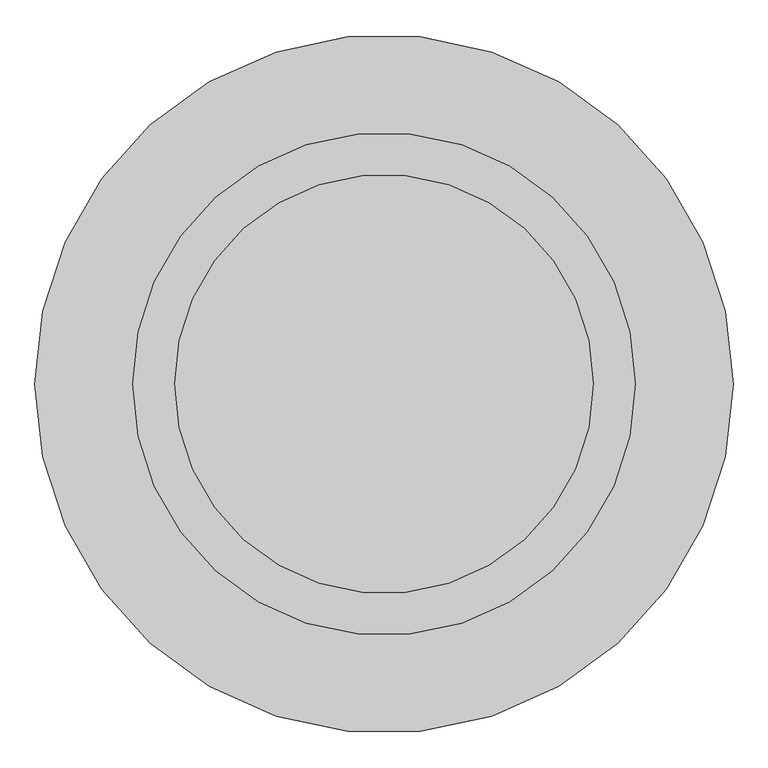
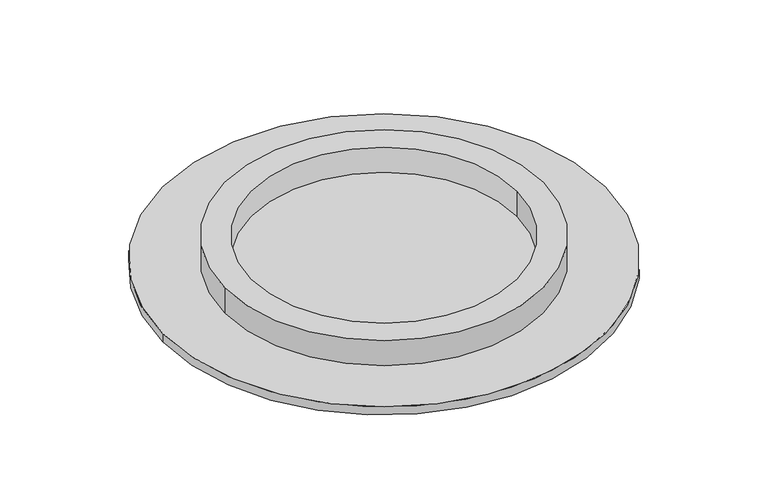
"""IFC4 building model written with IfcOpenShell, lengths in millimetres: proxy geometry, 景观水池 : 景观水池."""

import ifcopenshell
import ifcopenshell.guid

model = None  # the IFC model being written
_history = None  # IfcOwnerHistory: only IFC2X3 demands one
_inside = {}  # id of a spatial element -> (the spatial element, [elements in it])
_under = {}  # id of a project, library or spatial element -> (it, [spatial elements below it])
_declared = {}  # id of a project -> (the project, [libraries it declares])
_typed = {}  # id of a type object -> (the type object, [elements of that type])
_made_of = {}  # id of a material, layer set ... -> (it, [elements and type objects made of it])


def new_model(schema):
    """Start an empty IFC model of exactly this schema.

    Asked for "IFC4X3", IfcOpenShell would pick the latest addendum, in which some entities
    have other attributes; the version numbers below select the first issue.
    IFC2X3 requires an IfcOwnerHistory on every rooted entity: one is made here for all.
    """
    global model, _history
    if schema == "IFC4X3":
        model = ifcopenshell.file(schema_version=(4, 3, 0, 0))
    else:
        model = ifcopenshell.file(schema=schema)
    _inside.clear()
    _under.clear()
    _declared.clear()
    _typed.clear()
    _made_of.clear()
    _history = None
    if model.schema == "IFC2X3":
        org = make("IfcOrganization", Name="unknown")
        user = make(
            "IfcPersonAndOrganization",
            ThePerson=make("IfcPerson", FamilyName="unknown"),
            TheOrganization=org,
        )
        app = make(
            "IfcApplication",
            ApplicationDeveloper=org,
            Version="unknown",
            ApplicationFullName="unknown",
            ApplicationIdentifier="unknown",
        )
        _history = make(
            "IfcOwnerHistory",
            OwningUser=user,
            OwningApplication=app,
            ChangeAction="ADDED",
            CreationDate=0,
        )
    return model


def make(cls, **values):
    """One entity of the class cls with the attributes given. An attribute that is None is left unset."""
    return model.create_entity(
        cls, **{name: value for name, value in values.items() if value is not None}
    )


def rooted(cls, **values):
    """An entity with a GlobalId (a new one), such as an element, a storey or a relation."""
    return make(cls, GlobalId=ifcopenshell.guid.new(), OwnerHistory=_history, **values)


def si_unit(unit_type, name, prefix=None):
    """IfcSIUnit, for example si_unit("LENGTHUNIT", "METRE", prefix="MILLI")."""
    return make("IfcSIUnit", UnitType=unit_type, Prefix=prefix, Name=name)


def assignment(units):
    """IfcUnitAssignment: the units of a project."""
    return None if units is None else make("IfcUnitAssignment", Units=units)


def point(xyz):
    """IfcCartesianPoint."""
    return None if xyz is None else make("IfcCartesianPoint", Coordinates=xyz)


def direction(xyz):
    """IfcDirection."""
    return None if xyz is None else make("IfcDirection", DirectionRatios=xyz)


def frame(location, z_axis=None, x_axis=None):
    """IfcAxis2Placement3D, a coordinate frame: its origin and axes. An axis left out is left unset."""
    return make(
        "IfcAxis2Placement3D",
        Location=point(location),
        Axis=direction(z_axis),
        RefDirection=direction(x_axis),
    )


def frame_2d(location, x_axis=None):
    """IfcAxis2Placement2D, a coordinate frame in the plane: its origin and x axis."""
    return make(
        "IfcAxis2Placement2D", Location=point(location), RefDirection=direction(x_axis)
    )


def origin():
    """The frame at (0, 0, 0) with its axes left unset."""
    return frame((0.0, 0.0, 0.0))


def place(relative_to, where):
    """IfcLocalPlacement: puts the frame where relative to a parent placement (None: the world)."""
    return make(
        "IfcLocalPlacement", PlacementRelTo=relative_to, RelativePlacement=where
    )


def context(
    kind, dimensions, precision=None, world=None, true_north=None, identifier=None
):
    """IfcGeometricRepresentationContext, for example the 3D "Model" context."""
    return make(
        "IfcGeometricRepresentationContext",
        ContextIdentifier=identifier,
        ContextType=kind,
        CoordinateSpaceDimension=dimensions,
        Precision=precision,
        WorldCoordinateSystem=world,
        TrueNorth=true_north,
    )


def project(units=None, contexts=None):
    """IfcProject with its units and contexts."""
    return rooted(
        "IfcProject",
        Name="project",
        RepresentationContexts=contexts,
        UnitsInContext=assignment(units),
    )


def spatial(cls, under=None, at=None, **own):
    """A site, building, storey or space (cls), placed at a placement, below another one or the project."""
    s = rooted(cls, ObjectPlacement=at, **own)
    if under is not None:
        _under.setdefault(under.id(), (under, []))[1].append(s)
    return s


def circle_curve(where, radius):
    """IfcCircle in the frame where."""
    return make("IfcCircle", Position=where, Radius=radius)


def trimmed(basis, trim1, trim2, sense, master):
    """IfcTrimmedCurve: the piece of a basis curve between two trims."""
    return make(
        "IfcTrimmedCurve",
        BasisCurve=basis,
        Trim1=trim1,
        Trim2=trim2,
        SenseAgreement=sense,
        MasterRepresentation=master,
    )


def segment(curve, same_sense, transition):
    """IfcCompositeCurveSegment."""
    return make(
        "IfcCompositeCurveSegment",
        Transition=transition,
        SameSense=same_sense,
        ParentCurve=curve,
    )


def composite_curve(segments, self_intersect=None):
    """IfcCompositeCurve: segments joined end to end."""
    return make("IfcCompositeCurve", Segments=segments, SelfIntersect=self_intersect)


def outline(outer, holes=None, kind="AREA"):
    """IfcArbitraryClosedProfileDef: a profile drawn as a closed curve; with holes, ...WithVoids."""
    if holes is None:
        return make("IfcArbitraryClosedProfileDef", ProfileType=kind, OuterCurve=outer)
    return make(
        "IfcArbitraryProfileDefWithVoids",
        ProfileType=kind,
        OuterCurve=outer,
        InnerCurves=holes,
    )


def extrude(swept, where, along, depth):
    """IfcExtrudedAreaSolid: the profile swept, set in the frame where, extruded along a direction by depth."""
    return make(
        "IfcExtrudedAreaSolid",
        SweptArea=swept,
        Position=where,
        ExtrudedDirection=direction(along),
        Depth=depth,
    )


def shape(context_of_items, identifier, shape_type, items):
    """IfcShapeRepresentation: the items that make up one representation, for example the "Body"."""
    return make(
        "IfcShapeRepresentation",
        ContextOfItems=context_of_items,
        RepresentationIdentifier=identifier,
        RepresentationType=shape_type,
        Items=items,
    )


def source(mapping_origin, context_of_items, identifier, shape_type, items):
    """IfcRepresentationMap: a shape defined once, which mapped items show again and again."""
    return make(
        "IfcRepresentationMap",
        MappingOrigin=mapping_origin,
        MappedRepresentation=shape(context_of_items, identifier, shape_type, items),
    )


def transform(
    local_origin,
    x_axis=None,
    y_axis=None,
    z_axis=None,
    scale=None,
    scale2=None,
    scale3=None,
    uniform=True,
):
    """IfcCartesianTransformationOperator3D, or its non-uniform kind. x_axis, y_axis, z_axis: its Axis1, 2, 3."""
    if uniform:
        return make(
            "IfcCartesianTransformationOperator3D",
            Axis1=direction(x_axis),
            Axis2=direction(y_axis),
            LocalOrigin=point(local_origin),
            Scale=scale,
            Axis3=direction(z_axis),
        )
    return make(
        "IfcCartesianTransformationOperator3DnonUniform",
        Axis1=direction(x_axis),
        Axis2=direction(y_axis),
        LocalOrigin=point(local_origin),
        Scale=scale,
        Axis3=direction(z_axis),
        Scale2=scale2,
        Scale3=scale3,
    )


def mapped(mapping_source, mapping_target):
    """IfcMappedItem: shows the shape of a source again, moved by a transform."""
    return make(
        "IfcMappedItem", MappingSource=mapping_source, MappingTarget=mapping_target
    )


def made_of(thing, what):
    """Note that an element or type object is made of a material, layer set ...; save() writes the relation."""
    if what is not None:
        _made_of.setdefault(what.id(), (what, []))[1].append(thing)
    return thing


def element(
    cls,
    number,
    at=None,
    inside=None,
    cuts=None,
    type_object=None,
    material=None,
    context=None,
    identifier="Body",
    shape_type=None,
    held_by="IfcProductDefinitionShape",
    body=None,
    shapes=None,
    **own,
):
    """One element of the class cls, such as IfcWall. Its Tag is "e" and its number.

    at: its placement. inside: the storey or other place that contains it. cuts: it is an
    opening in that element (IfcRelVoidsElement). A single representation is given by context,
    identifier, shape_type and body (its items); several are given by shapes. held_by: the class
    of the entity that holds the representations. save() writes the other relations.
    """
    e = rooted(cls, Tag="e%d" % number, ObjectPlacement=at, **own)
    if body is not None:
        shapes = [shape(context, identifier, shape_type, body)]
    if shapes is not None:
        e.Representation = make(held_by, Representations=shapes)
    if inside is not None:
        _inside.setdefault(inside.id(), (inside, []))[1].append(e)
    if cuts is not None:
        rooted(
            "IfcRelVoidsElement", RelatingBuildingElement=cuts, RelatedOpeningElement=e
        )
    if type_object is not None:
        _typed.setdefault(type_object.id(), (type_object, []))[1].append(e)
    return made_of(e, material)


def aggregate(whole, parts):
    """IfcRelAggregates: a whole, such as a stair, and the parts it consists of."""
    return rooted("IfcRelAggregates", RelatingObject=whole, RelatedObjects=parts)


def save(model, path):
    """Write the relations noted so far, then the file.

    IfcRelAggregates (storeys below a building ...), IfcRelContainedInSpatialStructure (elements
    in a storey), IfcRelDefinesByType, IfcRelAssociatesMaterial and IfcRelDeclares: one each for
    every whole, place, type object, material and project.
    """
    for whole, parts in _under.values():
        aggregate(whole, parts)
    for where, things in _inside.values():
        rooted(
            "IfcRelContainedInSpatialStructure",
            RelatedElements=things,
            RelatingStructure=where,
        )
    for kind, things in _typed.values():
        rooted("IfcRelDefinesByType", RelatedObjects=things, RelatingType=kind)
    for what, things in _made_of.values():
        rooted("IfcRelAssociatesMaterial", RelatedObjects=things, RelatingMaterial=what)
    for by, libraries in _declared.values():
        rooted("IfcRelDeclares", RelatingContext=by, RelatedDefinitions=libraries)
    model.write(path)


def generic_models_2893cd3e(model_context):
    return source(origin(), model_context, "Body", "SweptSolid", [
        extrude(outline(composite_curve([segment(trimmed(circle_curve(frame_2d((-11793.5329749, -10858.0316688)), 1800.0), [point((-13593.5329749, -10858.0316688))], [point((-9993.5329749, -10858.0316688))], False, "CARTESIAN"), True, "CONTINUOUS"), segment(trimmed(circle_curve(frame_2d((-11793.5329749, -10858.0316688)), 1800.0), [point((-9993.5329749, -10858.0316688))], [point((-13593.5329749, -10858.0316688))], False, "CARTESIAN"), True, "CONTINUOUS")], self_intersect=False), holes=[composite_curve([segment(trimmed(circle_curve(frame_2d((-11793.5329749, -10858.0316688)), 1500.0), [point((-13293.5329749, -10858.0316688))], [point((-10293.5329749, -10858.0316688))], True, "CARTESIAN"), True, "CONTINUOUS"), segment(trimmed(circle_curve(frame_2d((-11793.5329749, -10858.0316688)), 1500.0), [point((-10293.5329749, -10858.0316688))], [point((-13293.5329749, -10858.0316688))], True, "CARTESIAN"), True, "CONTINUOUS")], self_intersect=False)]), frame((0.0, 0.0, -4200.0), z_axis=(0.0, 0.0, 1.0), x_axis=(1.0, 0.0, 0.0)), (0.0, 0.0, 1.0), 300.0),
        extrude(outline(composite_curve([segment(trimmed(circle_curve(frame_2d((-11793.5329749, -10858.0316688)), 2500.0), [point((-14293.5329749, -10858.0316688))], [point((-9293.5329749, -10858.0316688))], False, "CARTESIAN"), True, "CONTINUOUS"), segment(trimmed(circle_curve(frame_2d((-11793.5329749, -10858.0316688)), 2500.0), [point((-9293.5329749, -10858.0316688))], [point((-14293.5329749, -10858.0316688))], False, "CARTESIAN"), True, "CONTINUOUS")], self_intersect=False)), frame((0.0, 0.0, -4300.0), z_axis=(0.0, 0.0, 1.0), x_axis=(1.0, 0.0, 0.0)), (0.0, 0.0, 1.0), 100.0),
    ])


if __name__ == "__main__":
    model = new_model("IFC4")
    model_context = context("Model", 3, world=origin())
    ifc_project = project(units=[si_unit("LENGTHUNIT", "METRE", prefix="MILLI")], contexts=[model_context])
    site = spatial("IfcSite", under=ifc_project)
    building = spatial("IfcBuilding", under=site)
    placement = place(None, origin())
    generic_models_shape = generic_models_2893cd3e(model_context)
    element("IfcBuildingElementProxy", 1, Name="景观水池 : 景观水池", ObjectType="景观水池 : 景观水池", at=placement, inside=building, context=model_context, shape_type="MappedRepresentation", body=[
        mapped(generic_models_shape, transform((0.0, 0.0, 0.0), x_axis=(1.0, 0.0, 0.0), y_axis=(0.0, 1.0, 0.0), z_axis=(0.0, 0.0, 1.0))),
    ])
    save(model, "model.ifc")
